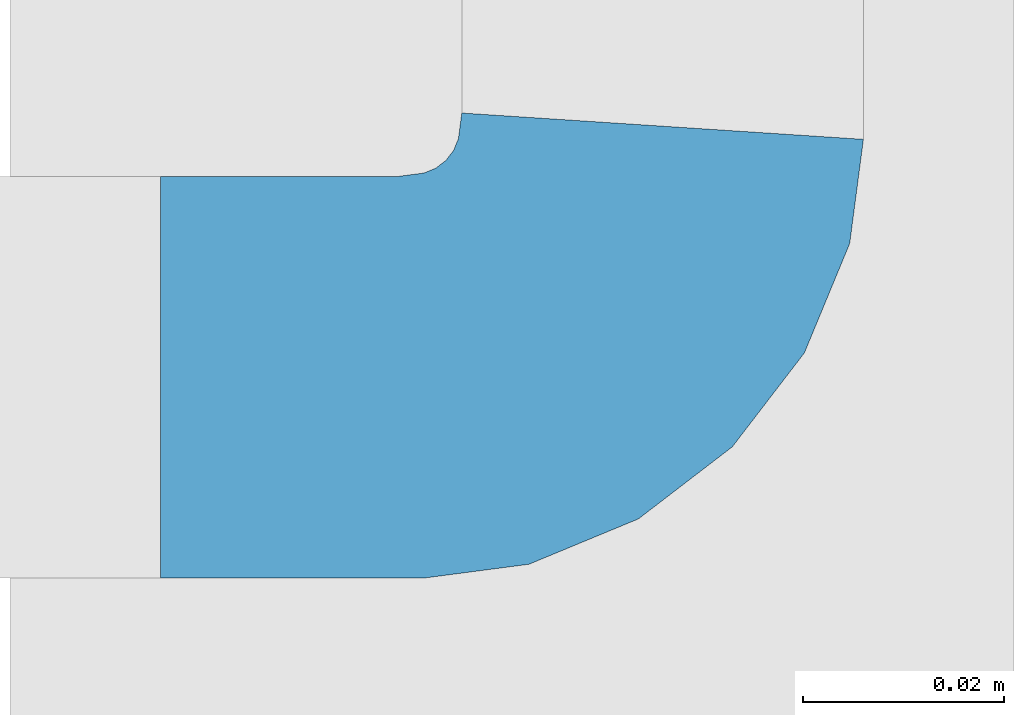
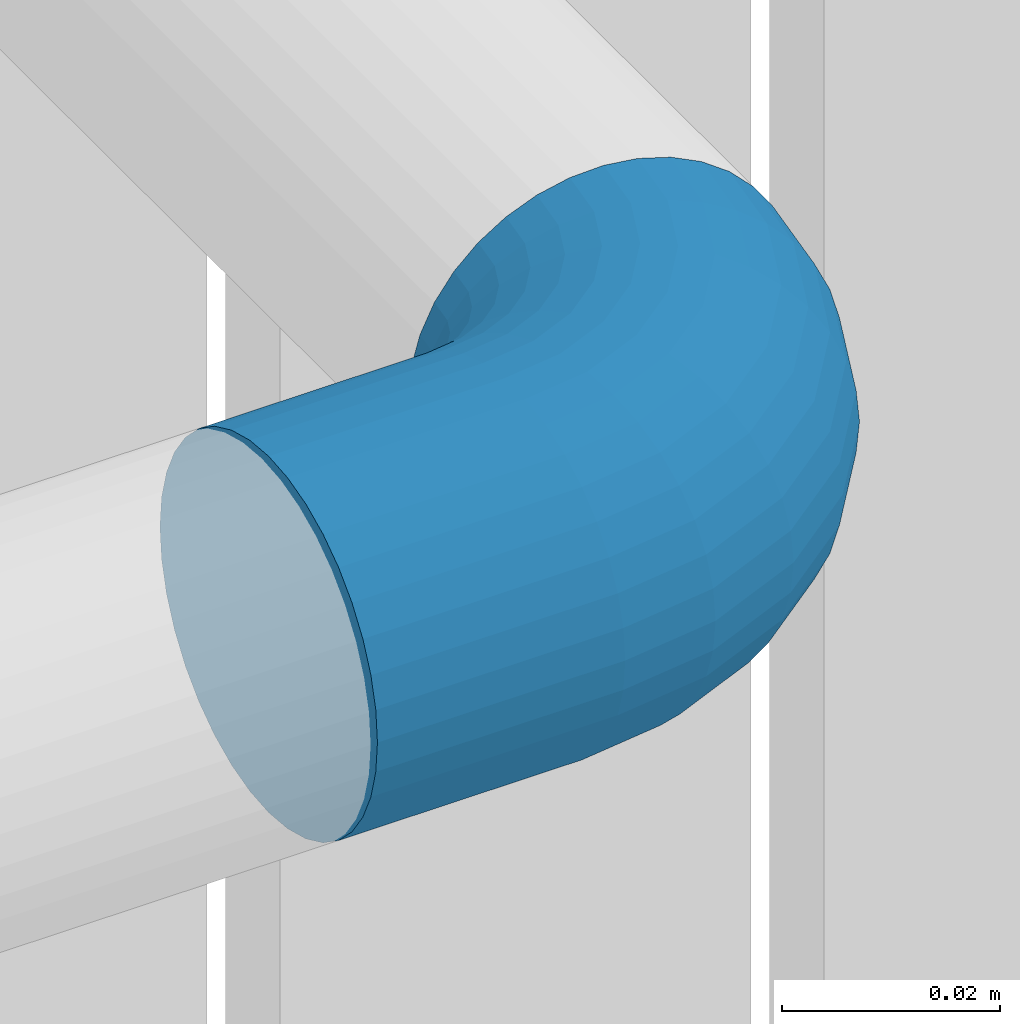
# One storey, part 85 of 418: 1 member, 1 element without a shape of its own.
"""IFC2X3 building model written with IfcOpenShell, lengths in millimetres."""

from ifc_helpers import new_model, entity, si_unit, converted_unit, derived_unit, money_unit, direction, frame, origin_with_axes, place, context, subcontext, project, spatial, faceted_brep, material, type_object, element, aggregate, save


model = new_model("IFC2X3")

# Units and contexts
model_context = context("Model", 3, precision=0.01, world=origin_with_axes(), true_north=direction((0.0, 1.0)))
body_context = subcontext(model_context, "Body", "Model", "MODEL_VIEW")
ifc_project = project(units=[si_unit("LENGTHUNIT", "METRE", prefix="MILLI"), si_unit("AREAUNIT", "SQUARE_METRE"), si_unit("VOLUMEUNIT", "CUBIC_METRE"), converted_unit("PLANEANGLEUNIT", "DEGREE", entity("IfcPlaneAngleMeasure", 0.0174532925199), si_unit("PLANEANGLEUNIT", "RADIAN"), dimensions=[0, 0, 0, 0, 0, 0, 0]), si_unit("SOLIDANGLEUNIT", "STERADIAN"), money_unit("EUR"), converted_unit("TIMEUNIT", "Year", entity("IfcTimeMeasure", 31556926.0), si_unit("TIMEUNIT", "SECOND"), dimensions=[0, 0, 1, 0, 0, 0, 0]), si_unit("MASSUNIT", "GRAM", prefix="KILO"), si_unit("THERMODYNAMICTEMPERATUREUNIT", "DEGREE_CELSIUS"), si_unit("LUMINOUSINTENSITYUNIT", "LUMEN"), si_unit("ENERGYUNIT", "JOULE", prefix="MEGA"), derived_unit("THERMALCONDUCTANCEUNIT", [(si_unit("POWERUNIT", "WATT"), 1), (si_unit("LENGTHUNIT", "METRE"), -1), (si_unit("THERMODYNAMICTEMPERATUREUNIT", "KELVIN"), -1)]), derived_unit("SPECIFICHEATCAPACITYUNIT", [(si_unit("ENERGYUNIT", "JOULE"), 1), (si_unit("MASSUNIT", "GRAM", prefix="KILO"), -1), (si_unit("THERMODYNAMICTEMPERATUREUNIT", "KELVIN"), -1)]), derived_unit("MASSDENSITYUNIT", [(si_unit("MASSUNIT", "GRAM", prefix="KILO"), 1), (si_unit("VOLUMEUNIT", "CUBIC_METRE"), -1)])], contexts=[model_context])

# Site, building, storey
site_placement = place(None, origin_with_axes())
site = spatial("IfcSite", under=ifc_project, at=site_placement, Name="Paldiski mnt 245/1, Tallinn, Harjumaa", CompositionType="COMPLEX")
building_placement = place(site_placement, origin_with_axes())
building = spatial("IfcBuilding", under=site, at=building_placement, Name="RKAS Hoone üldnimetus (kasutust iseloomustav) -> IFC Project Manager -> SOLIBRI", CompositionType="ELEMENT")
storey_placement = place(building_placement, origin_with_axes())
storey = spatial("IfcBuildingStorey", under=building, at=storey_placement, Name="Esimene korrus", CompositionType="ELEMENT", Elevation=0.0)

# Railing, member
railing_type = type_object("IfcRailingType", Name="Railing Type", PredefinedType="NOTDEFINED")
railing_placement = place(storey_placement, frame((-15438.0000282, 781.88210964, -670.434782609), z_axis=(0.0, 0.0, 1.0), x_axis=(-0.773149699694, -0.634223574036, 0.0)))
railing = element("IfcRailing", 1, at=railing_placement, inside=storey, type_object=railing_type, Name="Trepipiire", PredefinedType="NOTDEFINED")
ifc_material = material(Name="ET-07_Teras - Roostevaba")
member_type = type_object("IfcMemberType", Name="IfcMember", PredefinedType="USERDEFINED")
member_placement = place(railing_placement, frame((0.0, 0.0, 0.0), z_axis=(0.0, 0.0, 1.0), x_axis=(-0.773149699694, 0.634223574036, 0.0)))
member = element("IfcMember", 2, at=member_placement, type_object=member_type, material=ifc_material, ObjectType="Rail", context=body_context, shape_type="Brep", body=[
    faceted_brep([(14.9999999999, -5214.69615506, 4633.90774616), (14.9999999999, -5215.0, 4630.43478261), (41.3108692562, -5215.0, 4630.43478261), (41.2909542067, -5214.69615506, 4633.90774616), (14.9999999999, -5214.69615506, 4626.96181906), (14.9999999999, -5213.79385242, 4637.27518548), (14.9999999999, -5212.32050808, 4640.43478261), (14.9999999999, -5210.32088886, 4643.2905348), (14.9999999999, -5207.85575219, 4645.75567147), (14.9999999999, -5205.0, 4647.75529068), (14.9999999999, -5201.84040287, 4649.22863502), (14.9999999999, -5198.47296355, 4650.13093767), (14.9999999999, -5195.0, 4650.43478261), (14.9999999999, -5191.52703645, 4650.13093767), (14.9999999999, -5188.15959713, 4649.22863502), (14.9999999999, -5185.0, 4647.75529068), (14.9999999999, -5182.14424781, 4645.75567147), (14.9999999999, -5179.67911114, 4643.2905348), (14.9999999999, -5177.67949192, 4640.43478261), (14.9999999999, -5176.20614758, 4637.27518548), (14.9999999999, -5175.30384494, 4633.90774616), (14.9999999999, -5175.0, 4630.43478261), (14.9999999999, -5175.30384494, 4626.96181906), (14.9999999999, -5176.20614758, 4623.59437974), (14.9999999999, -5177.67949192, 4620.43478261), (14.9999999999, -5179.67911114, 4617.57903041), (14.9999999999, -5182.14424781, 4615.11389375), (14.9999999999, -5185.0, 4613.11427453), (14.9999999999, -5188.15959713, 4611.64093019), (14.9999999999, -5191.52703645, 4610.73862755), (14.9999999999, -5195.0, 4610.43478261), (14.9999999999, -5198.47296355, 4610.73862755), (14.9999999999, -5201.84040287, 4611.64093019), (14.9999999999, -5205.0, 4613.11427453), (14.9999999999, -5207.85575219, 4615.11389375), (14.9999999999, -5210.32088886, 4617.57903041), (14.9999999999, -5212.32050808, 4620.43478261), (14.9999999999, -5213.79385242, 4623.59437974), (41.2909542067, -5214.69615506, 4626.96181906), (51.6122043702, -5213.3373367, 4633.90774616), (51.6915238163, -5213.6333609, 4630.43478261), (41.2318141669, -5213.79385242, 4637.27518548), (41.1352460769, -5212.32050808, 4640.43478261), (41.0041841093, -5210.32088886, 4643.2905348), (40.8426105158, -5207.85575219, 4645.75567147), (40.655434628, -5205.0, 4647.75529068), (40.4483436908, -5201.84040287, 4649.22863502), (40.2276300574, -5198.47296355, 4650.13093767), (39.9999999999, -5195.0, 4650.43478261), (39.7723699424, -5191.52703645, 4650.13093767), (39.551656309, -5188.15959713, 4649.22863502), (39.3445653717, -5185.0, 4647.75529068), (39.157389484, -5182.14424781, 4645.75567147), (38.9958158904, -5179.67911114, 4643.2905348), (38.8647539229, -5177.67949192, 4640.43478261), (38.7681858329, -5176.20614758, 4637.27518548), (38.7090457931, -5175.30384494, 4633.90774616), (38.6891307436, -5175.0, 4630.43478261), (38.7090457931, -5175.30384494, 4626.96181906), (38.7681858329, -5176.20614758, 4623.59437974), (38.8647539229, -5177.67949192, 4620.43478261), (38.9958158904, -5179.67911114, 4617.57903041), (39.157389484, -5182.14424781, 4615.11389375), (39.3445653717, -5185.0, 4613.11427453), (39.551656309, -5188.15959713, 4611.64093019), (39.7723699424, -5191.52703645, 4610.73862755), (39.9999999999, -5195.0, 4610.43478261), (40.2276300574, -5198.47296355, 4610.73862755), (40.4483436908, -5201.84040287, 4611.64093019), (40.655434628, -5205.0, 4613.11427453), (40.8426105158, -5207.85575219, 4615.11389375), (41.0041841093, -5210.32088886, 4617.57903041), (41.1352460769, -5212.32050808, 4620.43478261), (41.2318141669, -5213.79385242, 4623.59437974), (51.6122043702, -5213.3373367, 4626.96181906), (51.3766561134, -5212.45825864, 4637.27518548), (62.4330562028, -5208.85519311, 4633.90774616), (62.5862896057, -5209.12060115, 4630.43478261), (50.9920360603, -5211.02283706, 4640.43478261), (50.4700306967, -5209.07468652, 4643.2905348), (49.8265008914, -5206.67300059, 4645.75567147), (49.0809999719, -5203.89075328, 4647.75529068), (48.2561796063, -5200.81248177, 4649.22863502), (47.3771015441, -5197.53171778, 4650.13093767), (46.4704761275, -5194.14814566, 4650.43478261), (45.5638507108, -5190.76457354, 4650.13093767), (44.6847726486, -5187.48380955, 4649.22863502), (43.8599522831, -5184.40553804, 4647.75529068), (43.1144513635, -5181.62329073, 4645.75567147), (42.4709215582, -5179.2216048, 4643.2905348), (41.9489161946, -5177.27345426, 4640.43478261), (41.5642961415, -5175.83803268, 4637.27518548), (41.3287478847, -5174.95895462, 4633.90774616), (41.2494284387, -5174.66293041, 4630.43478261), (41.3287478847, -5174.95895462, 4626.96181906), (41.5642961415, -5175.83803268, 4623.59437974), (41.9489161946, -5177.27345426, 4620.43478261), (42.4709215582, -5179.2216048, 4617.57903041), (43.1144513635, -5181.62329073, 4615.11389375), (43.8599522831, -5184.40553804, 4613.11427453), (44.6847726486, -5187.48380955, 4611.64093019), (45.5638507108, -5190.76457354, 4610.73862755), (46.4704761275, -5194.14814566, 4610.43478261), (47.3771015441, -5197.53171778, 4610.73862755), (48.2561796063, -5200.81248177, 4611.64093019), (49.0809999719, -5203.89075328, 4613.11427453), (49.8265008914, -5206.67300059, 4615.11389375), (50.4700306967, -5209.07468652, 4617.57903041), (50.9920360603, -5211.02283706, 4620.43478261), (51.3766561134, -5212.45825864, 4623.59437974), (62.4330562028, -5208.85519311, 4626.96181906), (61.9780119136, -5208.06703328, 4637.27518548), (71.7251323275, -5201.72513233, 4633.90774616), (71.9418370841, -5201.94183708, 4630.43478261), (61.2349830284, -5206.7800695, 4640.43478261), (60.2265461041, -5205.03340551, 4643.2905348), (58.9833419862, -5202.88011282, 4645.75567147), (57.5431448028, -5200.38561812, 4647.75529068), (55.9497142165, -5197.62571539, 4649.22863502), (54.2514658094, -5194.68426286, 4650.13093767), (52.4999999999, -5191.65063509, 4650.43478261), (50.7485341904, -5188.61700732, 4650.13093767), (49.0502857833, -5185.6755548, 4649.22863502), (47.456855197, -5182.91565207, 4647.75529068), (46.0166580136, -5180.42115737, 4645.75567147), (44.7734538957, -5178.26786468, 4643.2905348), (43.7650169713, -5176.52120069, 4640.43478261), (43.0219880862, -5175.23423691, 4637.27518548), (42.566943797, -5174.44607708, 4633.90774616), (42.4137103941, -5174.18066904, 4630.43478261), (42.566943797, -5174.44607708, 4626.96181906), (43.0219880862, -5175.23423691, 4623.59437974), (43.7650169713, -5176.52120069, 4620.43478261), (44.7734538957, -5178.26786468, 4617.57903041), (46.0166580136, -5180.42115737, 4615.11389375), (47.456855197, -5182.91565207, 4613.11427453), (49.0502857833, -5185.6755548, 4611.64093019), (50.7485341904, -5188.61700732, 4610.73862755), (52.4999999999, -5191.65063509, 4610.43478261), (54.2514658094, -5194.68426286, 4610.73862755), (55.9497142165, -5197.62571539, 4611.64093019), (57.5431448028, -5200.38561812, 4613.11427453), (58.9833419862, -5202.88011282, 4615.11389375), (60.2265461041, -5205.03340551, 4617.57903041), (61.2349830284, -5206.7800695, 4620.43478261), (61.9780119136, -5208.06703328, 4623.59437974), (71.7251323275, -5201.72513233, 4626.96181906), (71.0816025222, -5201.08160252, 4637.27518548), (78.8551931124, -5192.4330562, 4633.90774616), (79.1206011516, -5192.58628961, 4630.43478261), (70.0308009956, -5200.030801, 4640.43478261), (68.6046558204, -5198.60465582, 4643.2905348), (66.8464996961, -5196.8464997, 4645.75567147), (64.8097533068, -5194.80975331, 4647.75529068), (62.556302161, -5192.55630216, 4649.22863502), (60.1546162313, -5190.15461623, 4650.13093767), (57.6776695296, -5187.67766953, 4650.43478261), (55.2007228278, -5185.20072283, 4650.13093767), (52.7990368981, -5182.7990369, 4649.22863502), (50.5455857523, -5180.54558575, 4647.75529068), (48.508839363, -5178.50883936, 4645.75567147), (46.7506832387, -5176.75068324, 4643.2905348), (45.3245380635, -5175.32453806, 4640.43478261), (44.2737365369, -5174.27373654, 4637.27518548), (43.6302067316, -5173.63020673, 4633.90774616), (43.413501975, -5173.41350198, 4630.43478261), (43.6302067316, -5173.63020673, 4626.96181906), (44.2737365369, -5174.27373654, 4623.59437974), (45.3245380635, -5175.32453806, 4620.43478261), (46.7506832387, -5176.75068324, 4617.57903041), (48.508839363, -5178.50883936, 4615.11389375), (50.5455857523, -5180.54558575, 4613.11427453), (52.7990368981, -5182.7990369, 4611.64093019), (55.2007228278, -5185.20072283, 4610.73862755), (57.6776695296, -5187.67766953, 4610.43478261), (60.1546162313, -5190.15461623, 4610.73862755), (62.556302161, -5192.55630216, 4611.64093019), (64.8097533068, -5194.80975331, 4613.11427453), (66.8464996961, -5196.8464997, 4615.11389375), (68.6046558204, -5198.60465582, 4617.57903041), (70.0308009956, -5200.030801, 4620.43478261), (71.0816025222, -5201.08160252, 4623.59437974), (78.8551931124, -5192.4330562, 4626.96181906), (78.0670332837, -5191.97801191, 4637.27518548), (83.3373366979, -5181.61220437, 4633.90774616), (83.6333609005, -5181.69152382, 4630.43478261), (76.7800695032, -5191.23498303, 4640.43478261), (75.033405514, -5190.2265461, 4643.2905348), (72.8801128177, -5188.98334199, 4645.75567147), (70.3856181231, -5187.5431448, 4647.75529068), (67.6257153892, -5185.94971422, 4649.22863502), (64.6842628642, -5184.25146581, 4650.13093767), (61.6506350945, -5182.5, 4650.43478261), (58.6170073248, -5180.74853419, 4650.13093767), (55.6755547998, -5179.05028578, 4649.22863502), (52.915652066, -5177.4568552, 4647.75529068), (50.4211573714, -5176.01665801, 4645.75567147), (48.267864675, -5174.7734539, 4643.2905348), (46.5212006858, -5173.76501697, 4640.43478261), (45.2342369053, -5173.02198809, 4637.27518548), (44.4460770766, -5172.5669438, 4633.90774616), (44.1806690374, -5172.41371039, 4630.43478261), (44.4460770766, -5172.5669438, 4626.96181906), (45.2342369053, -5173.02198809, 4623.59437974), (46.5212006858, -5173.76501697, 4620.43478261), (48.267864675, -5174.7734539, 4617.57903041), (50.4211573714, -5176.01665801, 4615.11389375), (52.915652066, -5177.4568552, 4613.11427453), (55.6755547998, -5179.05028578, 4611.64093019), (58.6170073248, -5180.74853419, 4610.73862755), (61.6506350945, -5182.5, 4610.43478261), (64.6842628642, -5184.25146581, 4610.73862755), (67.6257153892, -5185.94971422, 4611.64093019), (70.3856181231, -5187.5431448, 4613.11427453), (72.8801128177, -5188.98334199, 4615.11389375), (75.033405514, -5190.2265461, 4617.57903041), (76.7800695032, -5191.23498303, 4620.43478261), (78.0670332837, -5191.97801191, 4623.59437974), (83.3373366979, -5181.61220437, 4626.96181906), (82.4582586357, -5181.37665611, 4637.27518548), (84.6961550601, -5171.29095421, 4633.90774616), (84.9999999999, -5171.31086926, 4630.43478261), (81.0228370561, -5180.99203606, 4640.43478261), (79.0746865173, -5180.4700307, 4643.2905348), (76.6730005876, -5179.82650089, 4645.75567147), (73.8907532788, -5179.08099997, 4647.75529068), (70.8124817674, -5178.25617961, 4649.22863502), (67.5317177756, -5177.37710154, 4650.13093767), (64.1481456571, -5176.47047613, 4650.43478261), (60.7645735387, -5175.56385071, 4650.13093767), (57.4838095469, -5174.68477265, 4649.22863502), (54.4055380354, -5173.85995228, 4647.75529068), (51.6232907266, -5173.11445136, 4645.75567147), (49.221604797, -5172.47092156, 4643.2905348), (47.2734542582, -5171.94891619, 4640.43478261), (45.8380326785, -5171.56429614, 4637.27518548), (44.9589546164, -5171.32874788, 4633.90774616), (44.6629304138, -5171.24942844, 4630.43478261), (44.9589546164, -5171.32874788, 4626.96181906), (45.8380326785, -5171.56429614, 4623.59437974), (47.2734542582, -5171.94891619, 4620.43478261), (49.221604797, -5172.47092156, 4617.57903041), (51.6232907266, -5173.11445136, 4615.11389375), (54.4055380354, -5173.85995228, 4613.11427453), (57.4838095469, -5174.68477265, 4611.64093019), (60.7645735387, -5175.56385071, 4610.73862755), (64.1481456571, -5176.47047613, 4610.43478261), (67.5317177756, -5177.37710154, 4610.73862755), (70.8124817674, -5178.25617961, 4611.64093019), (73.8907532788, -5179.08099997, 4613.11427453), (76.6730005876, -5179.82650089, 4615.11389375), (79.0746865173, -5180.4700307, 4617.57903041), (81.0228370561, -5180.99203606, 4620.43478261), (82.4582586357, -5181.37665611, 4623.59437974), (84.6961550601, -5171.29095421, 4626.96181906), (83.7938524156, -5171.23181417, 4637.27518548), (82.3205080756, -5171.13524608, 4640.43478261), (83.7938524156, -5171.23181417, 4623.59437974), (82.3205080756, -5171.13524608, 4620.43478261), (80.3208888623, -5171.00418411, 4617.57903041), (77.8557521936, -5170.84261052, 4615.11389375), (74.9999999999, -5170.65543463, 4613.11427453), (71.8404028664, -5170.44834369, 4611.64093019), (68.4729635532, -5170.22763006, 4610.73862755), (64.9999999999, -5170.0, 4610.43478261), (61.5270364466, -5169.77236994, 4610.73862755), (58.1595971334, -5169.55165631, 4611.64093019), (54.9999999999, -5169.34456537, 4613.11427453), (52.1442478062, -5169.15738948, 4615.11389375), (49.6791111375, -5168.99581589, 4617.57903041), (47.6794919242, -5168.86475392, 4620.43478261), (46.2061475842, -5168.76818583, 4623.59437974), (45.3038449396, -5168.70904579, 4626.96181906), (44.9999999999, -5168.68913074, 4630.43478261), (45.3038449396, -5168.70904579, 4633.90774616), (46.2061475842, -5168.76818583, 4637.27518548), (47.6794919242, -5168.86475392, 4640.43478261), (49.6791111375, -5168.99581589, 4643.2905348), (52.1442478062, -5169.15738948, 4645.75567147), (54.9999999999, -5169.34456537, 4647.75529068), (58.1595971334, -5169.55165631, 4649.22863502), (61.5270364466, -5169.77236994, 4650.13093767), (64.9999999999, -5170.0, 4650.43478261), (68.4729635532, -5170.22763006, 4650.13093767), (71.8404028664, -5170.44834369, 4649.22863502), (74.9999999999, -5170.65543463, 4647.75529068), (77.8557521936, -5170.84261052, 4645.75567147), (80.3208888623, -5171.00418411, 4643.2905348)], [[[0, 1, 2, 3]], [[4, 1, 0, 5, 6, 7, 8, 9, 10, 11, 12, 13, 14, 15, 16, 17, 18, 19, 20, 21, 22, 23, 24, 25, 26, 27, 28, 29, 30, 31, 32, 33, 34, 35, 36, 37]], [[1, 4, 38, 2]], [[39, 3, 2, 40]], [[5, 0, 3, 41]], [[6, 5, 41, 42]], [[7, 6, 42, 43]], [[8, 7, 43, 44]], [[9, 8, 44, 45]], [[10, 9, 45, 46]], [[11, 10, 46, 47]], [[12, 11, 47, 48]], [[13, 12, 48, 49]], [[14, 13, 49, 50]], [[15, 14, 50, 51]], [[16, 15, 51, 52]], [[17, 16, 52, 53]], [[18, 17, 53, 54]], [[19, 18, 54, 55]], [[20, 19, 55, 56]], [[21, 20, 56, 57]], [[22, 21, 57, 58]], [[23, 22, 58, 59]], [[24, 23, 59, 60]], [[25, 24, 60, 61]], [[26, 25, 61, 62]], [[27, 26, 62, 63]], [[28, 27, 63, 64]], [[29, 28, 64, 65]], [[30, 29, 65, 66]], [[31, 30, 66, 67]], [[32, 31, 67, 68]], [[33, 32, 68, 69]], [[34, 33, 69, 70]], [[35, 34, 70, 71]], [[36, 35, 71, 72]], [[37, 36, 72, 73]], [[4, 37, 73, 38]], [[40, 2, 38, 74]], [[75, 41, 3, 39]], [[76, 39, 40, 77]], [[78, 42, 41, 75]], [[79, 43, 42, 78]], [[80, 44, 43, 79]], [[81, 45, 44, 80]], [[82, 46, 45, 81]], [[83, 47, 46, 82]], [[84, 48, 47, 83]], [[85, 49, 48, 84]], [[86, 50, 49, 85]], [[87, 51, 50, 86]], [[88, 52, 51, 87]], [[89, 53, 52, 88]], [[90, 54, 53, 89]], [[91, 55, 54, 90]], [[92, 56, 55, 91]], [[93, 57, 56, 92]], [[94, 58, 57, 93]], [[95, 59, 58, 94]], [[96, 60, 59, 95]], [[97, 61, 60, 96]], [[98, 62, 61, 97]], [[99, 63, 62, 98]], [[100, 64, 63, 99]], [[101, 65, 64, 100]], [[102, 66, 65, 101]], [[103, 67, 66, 102]], [[104, 68, 67, 103]], [[105, 69, 68, 104]], [[106, 70, 69, 105]], [[107, 71, 70, 106]], [[108, 72, 71, 107]], [[109, 73, 72, 108]], [[74, 38, 73, 109]], [[77, 40, 74, 110]], [[111, 75, 39, 76]], [[112, 76, 77, 113]], [[114, 78, 75, 111]], [[115, 79, 78, 114]], [[116, 80, 79, 115]], [[117, 81, 80, 116]], [[118, 82, 81, 117]], [[119, 83, 82, 118]], [[120, 84, 83, 119]], [[121, 85, 84, 120]], [[122, 86, 85, 121]], [[123, 87, 86, 122]], [[124, 88, 87, 123]], [[125, 89, 88, 124]], [[126, 90, 89, 125]], [[127, 91, 90, 126]], [[128, 92, 91, 127]], [[129, 93, 92, 128]], [[130, 94, 93, 129]], [[131, 95, 94, 130]], [[132, 96, 95, 131]], [[133, 97, 96, 132]], [[134, 98, 97, 133]], [[135, 99, 98, 134]], [[136, 100, 99, 135]], [[137, 101, 100, 136]], [[138, 102, 101, 137]], [[139, 103, 102, 138]], [[140, 104, 103, 139]], [[141, 105, 104, 140]], [[142, 106, 105, 141]], [[143, 107, 106, 142]], [[144, 108, 107, 143]], [[145, 109, 108, 144]], [[110, 74, 109, 145]], [[113, 77, 110, 146]], [[147, 111, 76, 112]], [[148, 112, 113, 149]], [[150, 114, 111, 147]], [[151, 115, 114, 150]], [[152, 116, 115, 151]], [[153, 117, 116, 152]], [[154, 118, 117, 153]], [[155, 119, 118, 154]], [[156, 120, 119, 155]], [[157, 121, 120, 156]], [[158, 122, 121, 157]], [[159, 123, 122, 158]], [[160, 124, 123, 159]], [[161, 125, 124, 160]], [[162, 126, 125, 161]], [[163, 127, 126, 162]], [[164, 128, 127, 163]], [[165, 129, 128, 164]], [[166, 130, 129, 165]], [[167, 131, 130, 166]], [[168, 132, 131, 167]], [[169, 133, 132, 168]], [[170, 134, 133, 169]], [[171, 135, 134, 170]], [[172, 136, 135, 171]], [[173, 137, 136, 172]], [[174, 138, 137, 173]], [[175, 139, 138, 174]], [[176, 140, 139, 175]], [[177, 141, 140, 176]], [[178, 142, 141, 177]], [[179, 143, 142, 178]], [[180, 144, 143, 179]], [[181, 145, 144, 180]], [[146, 110, 145, 181]], [[149, 113, 146, 182]], [[183, 147, 112, 148]], [[184, 148, 149, 185]], [[186, 150, 147, 183]], [[187, 151, 150, 186]], [[188, 152, 151, 187]], [[189, 153, 152, 188]], [[190, 154, 153, 189]], [[191, 155, 154, 190]], [[192, 156, 155, 191]], [[193, 157, 156, 192]], [[194, 158, 157, 193]], [[195, 159, 158, 194]], [[196, 160, 159, 195]], [[197, 161, 160, 196]], [[198, 162, 161, 197]], [[199, 163, 162, 198]], [[200, 164, 163, 199]], [[201, 165, 164, 200]], [[202, 166, 165, 201]], [[203, 167, 166, 202]], [[204, 168, 167, 203]], [[205, 169, 168, 204]], [[206, 170, 169, 205]], [[207, 171, 170, 206]], [[208, 172, 171, 207]], [[209, 173, 172, 208]], [[210, 174, 173, 209]], [[211, 175, 174, 210]], [[212, 176, 175, 211]], [[213, 177, 176, 212]], [[214, 178, 177, 213]], [[215, 179, 178, 214]], [[216, 180, 179, 215]], [[217, 181, 180, 216]], [[182, 146, 181, 217]], [[185, 149, 182, 218]], [[219, 183, 148, 184]], [[220, 184, 185, 221]], [[222, 186, 183, 219]], [[223, 187, 186, 222]], [[224, 188, 187, 223]], [[225, 189, 188, 224]], [[226, 190, 189, 225]], [[227, 191, 190, 226]], [[228, 192, 191, 227]], [[229, 193, 192, 228]], [[230, 194, 193, 229]], [[231, 195, 194, 230]], [[232, 196, 195, 231]], [[233, 197, 196, 232]], [[234, 198, 197, 233]], [[235, 199, 198, 234]], [[236, 200, 199, 235]], [[237, 201, 200, 236]], [[238, 202, 201, 237]], [[239, 203, 202, 238]], [[240, 204, 203, 239]], [[241, 205, 204, 240]], [[242, 206, 205, 241]], [[243, 207, 206, 242]], [[244, 208, 207, 243]], [[245, 209, 208, 244]], [[246, 210, 209, 245]], [[247, 211, 210, 246]], [[248, 212, 211, 247]], [[249, 213, 212, 248]], [[250, 214, 213, 249]], [[251, 215, 214, 250]], [[252, 216, 215, 251]], [[253, 217, 216, 252]], [[218, 182, 217, 253]], [[221, 185, 218, 254]], [[255, 219, 184, 220]], [[256, 255, 220, 221, 254, 257, 258, 259, 260, 261, 262, 263, 264, 265, 266, 267, 268, 269, 270, 271, 272, 273, 274, 275, 276, 277, 278, 279, 280, 281, 282, 283, 284, 285, 286, 287]], [[256, 222, 219, 255]], [[287, 223, 222, 256]], [[286, 224, 223, 287]], [[285, 225, 224, 286]], [[284, 226, 225, 285]], [[283, 227, 226, 284]], [[282, 228, 227, 283]], [[281, 229, 228, 282]], [[280, 230, 229, 281]], [[279, 231, 230, 280]], [[278, 232, 231, 279]], [[277, 233, 232, 278]], [[276, 234, 233, 277]], [[275, 235, 234, 276]], [[274, 236, 235, 275]], [[273, 237, 236, 274]], [[272, 238, 237, 273]], [[271, 239, 238, 272]], [[270, 240, 239, 271]], [[269, 241, 240, 270]], [[268, 242, 241, 269]], [[267, 243, 242, 268]], [[266, 244, 243, 267]], [[265, 245, 244, 266]], [[264, 246, 245, 265]], [[263, 247, 246, 264]], [[262, 248, 247, 263]], [[261, 249, 248, 262]], [[260, 250, 249, 261]], [[259, 251, 250, 260]], [[258, 252, 251, 259]], [[257, 253, 252, 258]], [[254, 218, 253, 257]]]),
])
aggregate(railing, [member])

save(model, "model.ifc")
